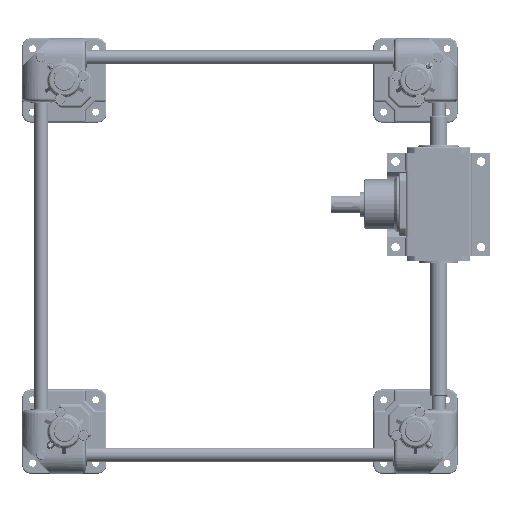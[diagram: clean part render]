
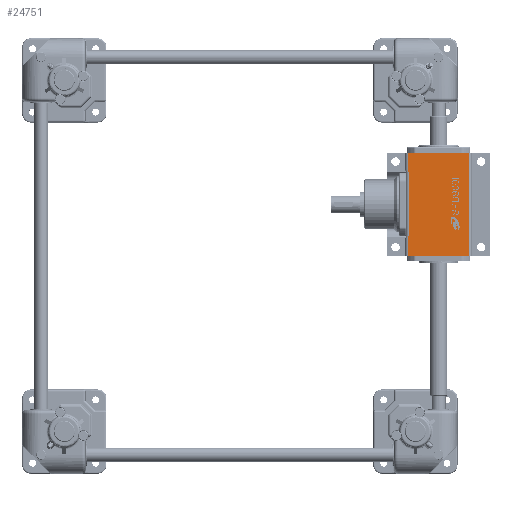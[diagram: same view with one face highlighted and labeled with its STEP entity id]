
A CAD part, top view. The second image highlights one B-rep face of the part: STEP entity #24751.
In plain terms, the highlighted planar face has unit normal (0, 0, 1).
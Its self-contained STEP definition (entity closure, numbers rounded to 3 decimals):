
#24751=ADVANCED_FACE('',(#52468),#52469,.T.);
#52468=FACE_OUTER_BOUND('',#118963,.T.);
#52469=PLANE('',#118964);
#118963=EDGE_LOOP('',(#226708,#226709,#226710,#226711,#226712,#226713,#226714,#226715,#226716,#226717));
#118964=AXIS2_PLACEMENT_3D('',#226718,#226719,#226720);
#226708=ORIENTED_EDGE('',*,*,#275878,.T.);
#226709=ORIENTED_EDGE('',*,*,#275835,.F.);
#226710=ORIENTED_EDGE('',*,*,#275899,.F.);
#226711=ORIENTED_EDGE('',*,*,#275855,.F.);
#226712=ORIENTED_EDGE('',*,*,#275838,.F.);
#226713=ORIENTED_EDGE('',*,*,#275799,.F.);
#226714=ORIENTED_EDGE('',*,*,#275868,.F.);
#226715=ORIENTED_EDGE('',*,*,#275793,.F.);
#226716=ORIENTED_EDGE('',*,*,#275804,.T.);
#226717=ORIENTED_EDGE('',*,*,#275887,.T.);
#226718=CARTESIAN_POINT('',(0.0,0.0,83.0));
#226719=DIRECTION('',(0.0,0.0,1.0));
#226720=DIRECTION('',(1.0,0.0,0.0));
#275793=EDGE_CURVE('',#338007,#338008,#338009,.T.);
#275799=EDGE_CURVE('',#338018,#338020,#338021,.T.);
#275804=EDGE_CURVE('',#338007,#338029,#338030,.T.);
#275835=EDGE_CURVE('',#338088,#338090,#338091,.T.);
#275838=EDGE_CURVE('',#338020,#338095,#338096,.T.);
#275855=EDGE_CURVE('',#338095,#338121,#338122,.T.);
#275868=EDGE_CURVE('',#338008,#338018,#338142,.T.);
#275878=EDGE_CURVE('',#338158,#338090,#338159,.T.);
#275887=EDGE_CURVE('',#338029,#338158,#338174,.T.);
#275899=EDGE_CURVE('',#338121,#338088,#338191,.T.);
#338007=VERTEX_POINT('',#458300);
#338008=VERTEX_POINT('',#458301);
#338009=LINE('',#458302,#458303);
#338018=VERTEX_POINT('',#458313);
#338020=VERTEX_POINT('',#458315);
#338021=CIRCLE('',#458316,24.0);
#338029=VERTEX_POINT('',#458324);
#338030=LINE('',#458325,#458326);
#338088=VERTEX_POINT('',#458401);
#338090=VERTEX_POINT('',#458403);
#338091=LINE('',#458404,#458405);
#338095=VERTEX_POINT('',#458409);
#338096=LINE('',#458410,#458411);
#338121=VERTEX_POINT('',#458445);
#338122=CIRCLE('',#458446,24.0);
#338142=CIRCLE('',#458474,16.0);
#338158=VERTEX_POINT('',#458494);
#338159=LINE('',#458495,#458496);
#338174=LINE('',#458513,#458514);
#338191=CIRCLE('',#458539,16.0);
#458300=CARTESIAN_POINT('',(-73.0,43.25,83.0));
#458301=CARTESIAN_POINT('',(-50.444,43.25,83.0));
#458302=CARTESIAN_POINT('',(-61.722,43.25,83.0));
#458303=VECTOR('',#511905,1.0);
#458313=CARTESIAN_POINT('',(-47.922,43.05,83.0));
#458315=CARTESIAN_POINT('',(-44.139,42.75,83.0));
#458316=AXIS2_PLACEMENT_3D('',#511919,#511920,#511921);
#458324=CARTESIAN_POINT('',(-73.0,-43.25,83.0));
#458325=CARTESIAN_POINT('',(-73.0,0.0,83.0));
#458326=VECTOR('',#511934,1.0);
#458401=CARTESIAN_POINT('',(50.444,43.25,83.0));
#458403=CARTESIAN_POINT('',(73.0,43.25,83.0));
#458404=CARTESIAN_POINT('',(61.722,43.25,83.0));
#458405=VECTOR('',#511998,1.0);
#458409=CARTESIAN_POINT('',(44.139,42.75,83.0));
#458410=CARTESIAN_POINT('',(0.,42.75,83.0));
#458411=VECTOR('',#512005,1.0);
#458445=CARTESIAN_POINT('',(47.922,43.05,83.0));
#458446=AXIS2_PLACEMENT_3D('',#512036,#512037,#512038);
#458474=AXIS2_PLACEMENT_3D('',#512059,#512060,#512061);
#458494=CARTESIAN_POINT('',(73.0,-43.25,83.0));
#458495=CARTESIAN_POINT('',(73.0,0.,83.0));
#458496=VECTOR('',#512081,1.0);
#458513=CARTESIAN_POINT('',(0.0,-43.25,83.0));
#458514=VECTOR('',#512102,1.0);
#458539=AXIS2_PLACEMENT_3D('',#512127,#512128,#512129);
#511905=DIRECTION('',(1.0,0.0,0.0));
#511919=CARTESIAN_POINT('',(-44.139,66.75,83.0));
#511920=DIRECTION('',(0.0,0.0,1.0));
#511921=DIRECTION('',(1.0,0.0,0.0));
#511934=DIRECTION('',(0.0,-1.0,0.0));
#511998=DIRECTION('',(1.0,0.0,0.0));
#512005=DIRECTION('',(1.0,0.0,0.0));
#512036=CARTESIAN_POINT('',(44.139,66.75,83.0));
#512037=DIRECTION('',(0.0,0.0,1.0));
#512038=DIRECTION('',(1.0,0.0,0.0));
#512059=CARTESIAN_POINT('',(-50.444,27.25,83.0));
#512060=DIRECTION('',(0.0,0.0,-1.0));
#512061=DIRECTION('',(1.0,0.0,0.0));
#512081=DIRECTION('',(0.0,1.0,0.0));
#512102=DIRECTION('',(1.0,0.0,0.0));
#512127=CARTESIAN_POINT('',(50.444,27.25,83.0));
#512128=DIRECTION('',(0.0,0.0,-1.0));
#512129=DIRECTION('',(1.0,0.0,0.0));
